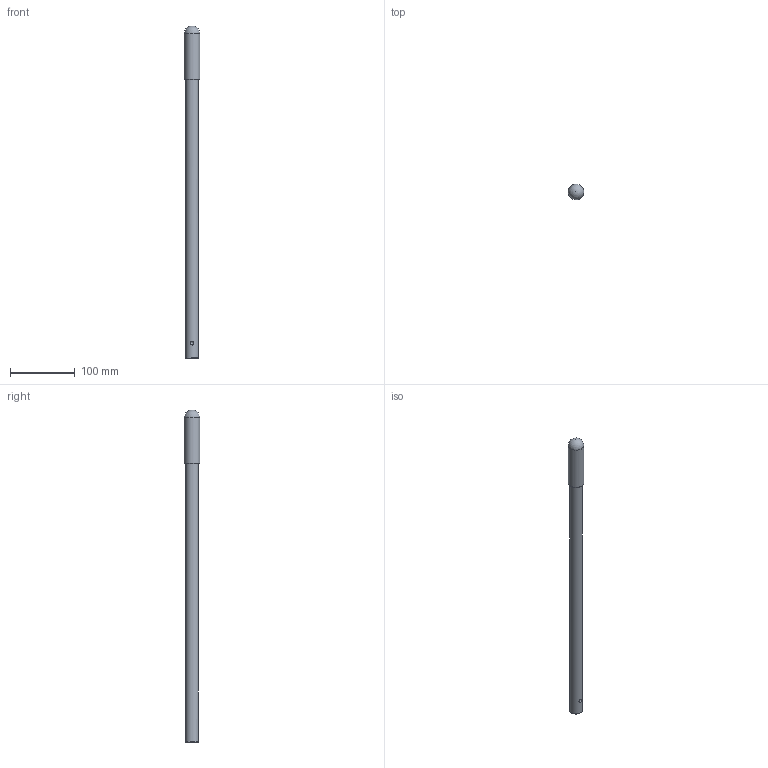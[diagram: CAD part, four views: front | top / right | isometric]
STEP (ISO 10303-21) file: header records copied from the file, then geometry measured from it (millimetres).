
FILE_DESCRIPTION((''),'2;1');
FILE_NAME('G:\HV_HYDRAULIC\AZIENDA_HV_HYDRAULIC\ARCHIVIO_DISEGNI\5_PRODOTTI_FINITI\5_LEVE\6800_LEVE\6800.0000_LT_20x500_dzb_(HV)\6800.0000.stp','2024-09-17T08:23:12',('christian.scardovi'),(''),'Autodesk Inventor 2013','Autodesk Inventor 2013','');
FILE_SCHEMA(('AUTOMOTIVE_DESIGN { 1 0 10303 214 1 1 1 1 }'));
Length unit declared in the file: millimetre
Products named in the file (1): 6800.0000
Bounding box: 23.92 x 23.92 x 511 mm (x, y, z)
Volume: 81764.3 mm3; surface area: 57243.3 mm2
Topology: 1 solids, 1 shells, 12 faces, 27 edges, 17 vertices
Faces by surface type: cylinder 4, cone 4, plane 2, sphere 1, torus 1
Full cylindrical faces by diameter (mm): 6 x1, 15 x1, 20 x1, 24 x1
Entity records: 325 total; most frequent: CARTESIAN_POINT 72, DIRECTION 46, ORIENTED_EDGE 24, AXIS2_PLACEMENT_3D 23, EDGE_LOOP 22, STYLED_ITEM 13, VERTEX_POINT 12, EDGE_CURVE 12
